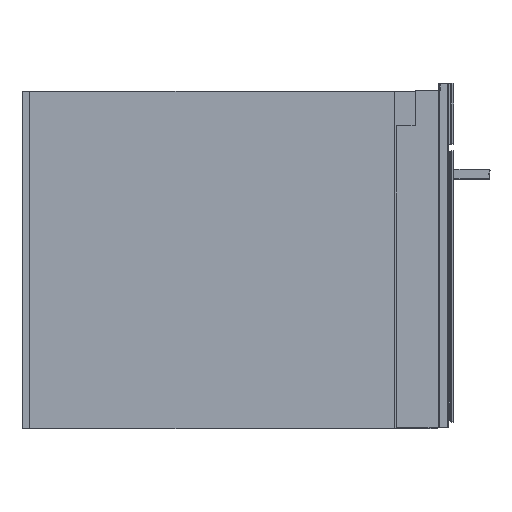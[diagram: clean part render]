
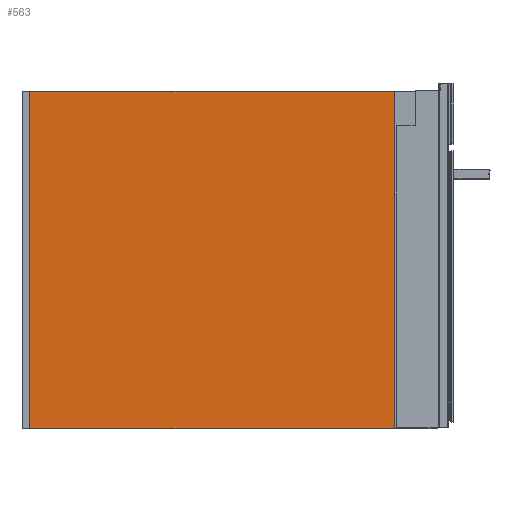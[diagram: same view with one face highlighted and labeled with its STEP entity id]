
A CAD part, left-side view. The second image highlights one B-rep face of the part: STEP entity #563.
In plain terms, the highlighted planar face has unit normal (-1, 0, 0).
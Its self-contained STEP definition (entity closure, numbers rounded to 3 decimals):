
#563=ADVANCED_FACE('',(#905),#5121,.T.);
#905=FACE_OUTER_BOUND('',#1247,.T.);
#1247=EDGE_LOOP('',(#1621,#1622,#1623,#1624));
#1621=ORIENTED_EDGE('',*,*,#3245,.F.);
#1622=ORIENTED_EDGE('',*,*,#3246,.F.);
#1623=ORIENTED_EDGE('',*,*,#3221,.T.);
#1624=ORIENTED_EDGE('',*,*,#3244,.F.);
#3221=EDGE_CURVE('',#4618,#4617,#4035,.T.);
#3244=EDGE_CURVE('',#4636,#4617,#4058,.T.);
#3245=EDGE_CURVE('',#4637,#4636,#4059,.T.);
#3246=EDGE_CURVE('',#4618,#4637,#4060,.T.);
#4035=B_SPLINE_CURVE_WITH_KNOTS('',1,(#5951,#5952),.UNSPECIFIED.,.F.,.F.,
(2,2),(-479.5,0.),.UNSPECIFIED.);
#4058=B_SPLINE_CURVE_WITH_KNOTS('',1,(#5997,#5998),.UNSPECIFIED.,.F.,.F.,
(2,2),(-443.7,0.),.UNSPECIFIED.);
#4059=B_SPLINE_CURVE_WITH_KNOTS('',1,(#5999,#6000),.UNSPECIFIED.,.F.,.F.,
(2,2),(-479.5,0.),.UNSPECIFIED.);
#4060=B_SPLINE_CURVE_WITH_KNOTS('',1,(#6001,#6002),.UNSPECIFIED.,.F.,.F.,
(2,2),(-443.7,0.),.UNSPECIFIED.);
#4617=VERTEX_POINT('',#5915);
#4618=VERTEX_POINT('',#5916);
#4636=VERTEX_POINT('',#5934);
#4637=VERTEX_POINT('',#5935);
#5121=PLANE('',#5331);
#5331=AXIS2_PLACEMENT_3D('',#5899,#5615,$);
#5615=DIRECTION('',(-1.,0.,0.));
#5899=CARTESIAN_POINT('',(-360.,29.99,-44.43));
#5915=CARTESIAN_POINT('',(-360.,557.5,443.7));
#5916=CARTESIAN_POINT('',(-360.,78.,443.7));
#5934=CARTESIAN_POINT('',(-360.,557.5,0.));
#5935=CARTESIAN_POINT('',(-360.,78.,0.));
#5951=CARTESIAN_POINT('',(-360.,78.,443.7));
#5952=CARTESIAN_POINT('',(-360.,557.5,443.7));
#5997=CARTESIAN_POINT('',(-360.,557.5,0.));
#5998=CARTESIAN_POINT('',(-360.,557.5,443.7));
#5999=CARTESIAN_POINT('',(-360.,78.,0.));
#6000=CARTESIAN_POINT('',(-360.,557.5,0.));
#6001=CARTESIAN_POINT('',(-360.,78.,443.7));
#6002=CARTESIAN_POINT('',(-360.,78.,0.));
